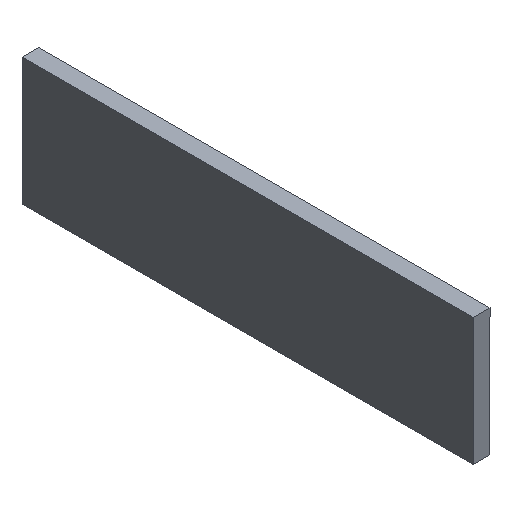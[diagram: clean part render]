
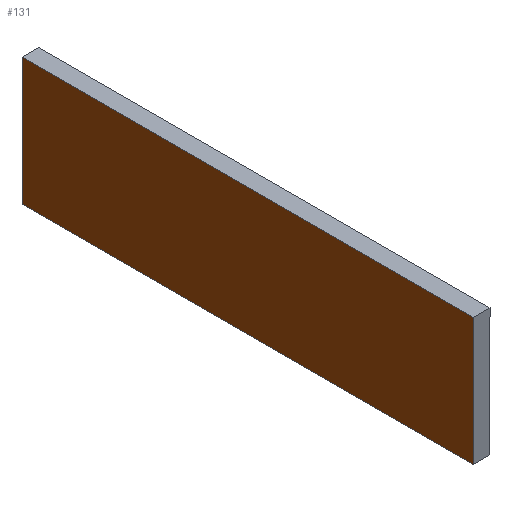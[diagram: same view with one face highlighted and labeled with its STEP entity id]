
A CAD part, isometric view. The second image highlights one B-rep face of the part: STEP entity #131.
In plain terms, the highlighted planar face has unit normal (-1, 0, 0).
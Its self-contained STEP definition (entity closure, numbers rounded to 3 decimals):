
#2 = DIRECTION ( 'NONE',  ( 0., -1., 0. ) ) ;
#14 = CARTESIAN_POINT ( 'NONE',  ( -21.7, -22.79, 44.875 ) ) ;
#19 = EDGE_CURVE ( 'NONE', #172, #152, #236, .T. ) ;
#47 = CARTESIAN_POINT ( 'NONE',  ( -21.7, 33.01, 29.125 ) ) ;
#48 = EDGE_CURVE ( 'NONE', #152, #208, #141, .T. ) ;
#54 = CARTESIAN_POINT ( 'NONE',  ( -21.7, 33.01, 44.875 ) ) ;
#58 = AXIS2_PLACEMENT_3D ( 'NONE', #72, #74, #88 ) ;
#59 = CARTESIAN_POINT ( 'NONE',  ( -21.7, 33.01, 44.875 ) ) ;
#72 = CARTESIAN_POINT ( 'NONE',  ( -21.7, 33.01, 29.125 ) ) ;
#74 = DIRECTION ( 'NONE',  ( 1., 0., 0. ) ) ;
#88 = DIRECTION ( 'NONE',  ( 0., 1., 0. ) ) ;
#90 = DIRECTION ( 'NONE',  ( 0., 1., 0. ) ) ;
#101 = VECTOR ( 'NONE', #2, 1000. ) ;
#102 = LINE ( 'NONE', #54, #101 ) ;
#104 = FACE_OUTER_BOUND ( 'NONE', #157, .T. ) ;
#109 = VECTOR ( 'NONE', #194, 1000. ) ;
#127 = LINE ( 'NONE', #171, #109 ) ;
#128 = EDGE_CURVE ( 'NONE', #208, #150, #127, .T. ) ;
#129 = VECTOR ( 'NONE', #90, 1000. ) ;
#131 = ADVANCED_FACE ( 'NONE', ( #104 ), #138, .F. ) ;
#134 = VECTOR ( 'NONE', #214, 1000. ) ;
#138 = PLANE ( 'NONE',  #58 ) ;
#141 = LINE ( 'NONE', #47, #129 ) ;
#142 = ORIENTED_EDGE ( 'NONE', *, *, #48, .F. ) ;
#143 = CARTESIAN_POINT ( 'NONE',  ( -21.7, -22.79, 29.125 ) ) ;
#149 = ORIENTED_EDGE ( 'NONE', *, *, #19, .F. ) ;
#150 = VERTEX_POINT ( 'NONE', #59 ) ;
#152 = VERTEX_POINT ( 'NONE', #143 ) ;
#154 = EDGE_CURVE ( 'NONE', #150, #172, #102, .T. ) ;
#157 = EDGE_LOOP ( 'NONE', ( #189, #142, #149, #158 ) ) ;
#158 = ORIENTED_EDGE ( 'NONE', *, *, #154, .F. ) ;
#159 = CARTESIAN_POINT ( 'NONE',  ( -21.7, 33.01, 29.125 ) ) ;
#171 = CARTESIAN_POINT ( 'NONE',  ( -21.7, 33.01, 29.125 ) ) ;
#172 = VERTEX_POINT ( 'NONE', #14 ) ;
#189 = ORIENTED_EDGE ( 'NONE', *, *, #128, .F. ) ;
#194 = DIRECTION ( 'NONE',  ( 0., 0., 1. ) ) ;
#208 = VERTEX_POINT ( 'NONE', #159 ) ;
#214 = DIRECTION ( 'NONE',  ( 0., 0., -1. ) ) ;
#228 = CARTESIAN_POINT ( 'NONE',  ( -21.7, -22.79, 29.125 ) ) ;
#236 = LINE ( 'NONE', #228, #134 ) ;
